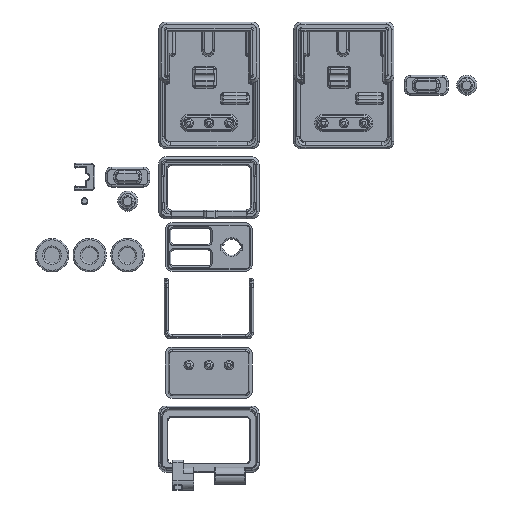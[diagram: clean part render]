
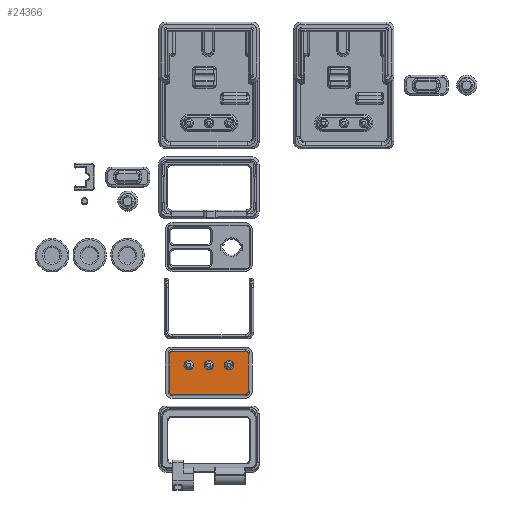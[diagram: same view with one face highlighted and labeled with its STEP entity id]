
A CAD part, top view. The second image highlights one B-rep face of the part: STEP entity #24366.
In plain terms, the highlighted planar face has unit normal (0, 0, 1).
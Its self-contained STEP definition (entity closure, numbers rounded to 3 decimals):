
#442=FACE_BOUND('',#8594,.T.);
#443=FACE_BOUND('',#8595,.T.);
#444=FACE_BOUND('',#8596,.T.);
#1045=PLANE('',#27222);
#2779=LINE('',#43339,#4750);
#2780=LINE('',#43343,#4751);
#2781=LINE('',#43347,#4752);
#2782=LINE('',#43351,#4753);
#4750=VECTOR('',#34172,10.);
#4751=VECTOR('',#34175,10.);
#4752=VECTOR('',#34178,10.);
#4753=VECTOR('',#34181,10.);
#7019=FACE_OUTER_BOUND('',#8593,.T.);
#8593=EDGE_LOOP('',(#21627,#21628,#21629,#21630,#21631,#21632,#21633,#21634));
#8594=EDGE_LOOP('',(#21635));
#8595=EDGE_LOOP('',(#21636));
#8596=EDGE_LOOP('',(#21637));
#9949=CIRCLE('',#27220,3.5);
#9951=CIRCLE('',#27223,2.);
#9952=CIRCLE('',#27224,2.);
#9953=CIRCLE('',#27225,2.);
#9954=CIRCLE('',#27226,2.);
#9955=CIRCLE('',#27227,3.5);
#9956=CIRCLE('',#27228,3.5);
#11900=VERTEX_POINT('',#43333);
#11901=VERTEX_POINT('',#43337);
#11902=VERTEX_POINT('',#43338);
#11903=VERTEX_POINT('',#43340);
#11904=VERTEX_POINT('',#43342);
#11905=VERTEX_POINT('',#43344);
#11906=VERTEX_POINT('',#43346);
#11907=VERTEX_POINT('',#43348);
#11908=VERTEX_POINT('',#43350);
#11909=VERTEX_POINT('',#43353);
#11910=VERTEX_POINT('',#43355);
#15184=EDGE_CURVE('',#11900,#11900,#9949,.T.);
#15186=EDGE_CURVE('',#11901,#11902,#2779,.T.);
#15187=EDGE_CURVE('',#11903,#11901,#9951,.T.);
#15188=EDGE_CURVE('',#11904,#11903,#2780,.T.);
#15189=EDGE_CURVE('',#11905,#11904,#9952,.T.);
#15190=EDGE_CURVE('',#11906,#11905,#2781,.T.);
#15191=EDGE_CURVE('',#11907,#11906,#9953,.T.);
#15192=EDGE_CURVE('',#11908,#11907,#2782,.T.);
#15193=EDGE_CURVE('',#11902,#11908,#9954,.T.);
#15194=EDGE_CURVE('',#11909,#11909,#9955,.T.);
#15195=EDGE_CURVE('',#11910,#11910,#9956,.T.);
#21627=ORIENTED_EDGE('',*,*,#15186,.F.);
#21628=ORIENTED_EDGE('',*,*,#15187,.F.);
#21629=ORIENTED_EDGE('',*,*,#15188,.F.);
#21630=ORIENTED_EDGE('',*,*,#15189,.F.);
#21631=ORIENTED_EDGE('',*,*,#15190,.F.);
#21632=ORIENTED_EDGE('',*,*,#15191,.F.);
#21633=ORIENTED_EDGE('',*,*,#15192,.F.);
#21634=ORIENTED_EDGE('',*,*,#15193,.F.);
#21635=ORIENTED_EDGE('',*,*,#15194,.F.);
#21636=ORIENTED_EDGE('',*,*,#15195,.F.);
#21637=ORIENTED_EDGE('',*,*,#15184,.F.);
#24366=ADVANCED_FACE('',(#7019,#442,#443,#444),#1045,.F.);
#27220=AXIS2_PLACEMENT_3D('',#43334,#34166,#34167);
#27222=AXIS2_PLACEMENT_3D('',#43336,#34170,#34171);
#27223=AXIS2_PLACEMENT_3D('',#43341,#34173,#34174);
#27224=AXIS2_PLACEMENT_3D('',#43345,#34176,#34177);
#27225=AXIS2_PLACEMENT_3D('',#43349,#34179,#34180);
#27226=AXIS2_PLACEMENT_3D('',#43352,#34182,#34183);
#27227=AXIS2_PLACEMENT_3D('',#43354,#34184,#34185);
#27228=AXIS2_PLACEMENT_3D('',#43356,#34186,#34187);
#34166=DIRECTION('center_axis',(0.,0.,
1.));
#34167=DIRECTION('ref_axis',(1.,0.,0.));
#34170=DIRECTION('center_axis',(0.,0.,
-1.));
#34171=DIRECTION('ref_axis',(-1.,0.,0.));
#34172=DIRECTION('',(0.,-1.,0.));
#34173=DIRECTION('center_axis',(0.,0.,
-1.));
#34174=DIRECTION('ref_axis',(0.707,0.707,0.));
#34175=DIRECTION('',(1.,0.,0.));
#34176=DIRECTION('center_axis',(0.,0.,
-1.));
#34177=DIRECTION('ref_axis',(-0.707,0.707,0.));
#34178=DIRECTION('',(0.,1.,0.));
#34179=DIRECTION('center_axis',(0.,0.,
-1.));
#34180=DIRECTION('ref_axis',(-0.707,-0.707,0.));
#34181=DIRECTION('',(-1.,0.,0.));
#34182=DIRECTION('center_axis',(0.,0.,
-1.));
#34183=DIRECTION('ref_axis',(0.707,-0.707,0.));
#34184=DIRECTION('center_axis',(0.,0.,
1.));
#34185=DIRECTION('ref_axis',(1.,0.,0.));
#34186=DIRECTION('center_axis',(0.,0.,
1.));
#34187=DIRECTION('ref_axis',(1.,0.,0.));
#43333=CARTESIAN_POINT('',(-12.108,82.862,-17.574));
#43334=CARTESIAN_POINT('Origin',(-15.608,82.862,-17.574));
#43336=CARTESIAN_POINT('Origin',(-32.858,77.362,-17.574));
#43337=CARTESIAN_POINT('',(-1.358,91.362,-17.574));
#43338=CARTESIAN_POINT('',(-1.358,63.362,-17.574));
#43339=CARTESIAN_POINT('',(-1.358,85.862,-17.574));
#43340=CARTESIAN_POINT('',(-3.358,93.362,-17.574));
#43341=CARTESIAN_POINT('Origin',(-3.358,91.362,-17.574));
#43342=CARTESIAN_POINT('',(-57.858,93.362,-17.574));
#43343=CARTESIAN_POINT('',(-46.858,93.362,-17.574));
#43344=CARTESIAN_POINT('',(-59.858,91.362,-17.574));
#43345=CARTESIAN_POINT('Origin',(-57.858,91.362,-17.574));
#43346=CARTESIAN_POINT('',(-59.858,63.362,-17.574));
#43347=CARTESIAN_POINT('',(-59.858,68.862,-17.574));
#43348=CARTESIAN_POINT('',(-57.858,61.362,-17.574));
#43349=CARTESIAN_POINT('Origin',(-57.858,63.362,-17.574));
#43350=CARTESIAN_POINT('',(-3.358,61.362,-17.574));
#43351=CARTESIAN_POINT('',(-18.858,61.362,-17.574));
#43352=CARTESIAN_POINT('Origin',(-3.358,63.362,-17.574));
#43353=CARTESIAN_POINT('',(-34.108,82.862,-17.574));
#43354=CARTESIAN_POINT('Origin',(-30.608,82.862,-17.574));
#43355=CARTESIAN_POINT('',(-42.108,82.862,-17.574));
#43356=CARTESIAN_POINT('Origin',(-45.608,82.862,-17.574));
